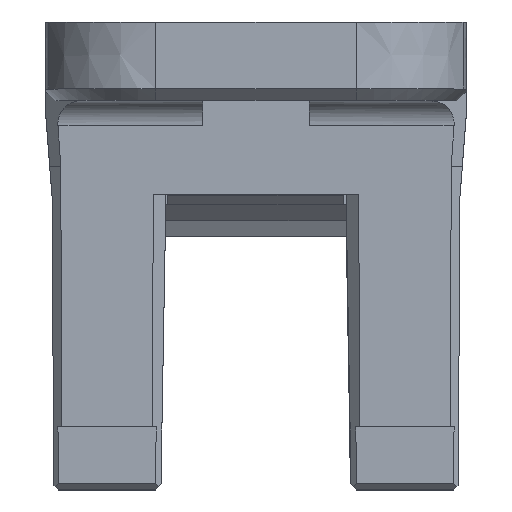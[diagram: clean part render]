
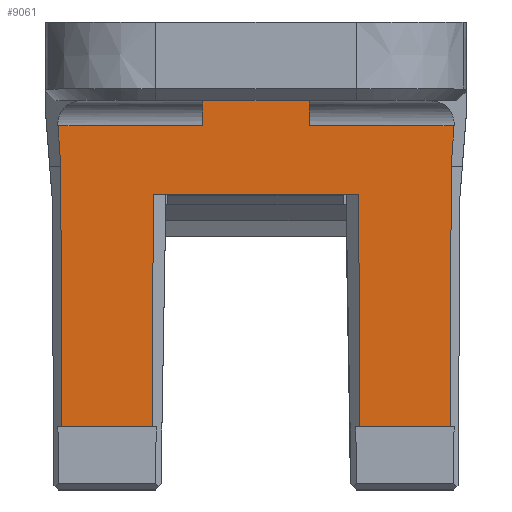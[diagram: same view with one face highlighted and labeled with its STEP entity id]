
A CAD part, top view. The second image highlights one B-rep face of the part: STEP entity #9061.
In plain terms, the highlighted planar face has unit normal (0, -0.005, 1).
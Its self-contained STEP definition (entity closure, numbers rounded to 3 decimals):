
#116 = CARTESIAN_POINT ( 'NONE',  ( 5.417, -13.332, 3.845 ) ) ;
#206 = ORIENTED_EDGE ( 'NONE', *, *, #9272, .T. ) ;
#349 = DIRECTION ( 'NONE',  ( 0., -1., -0.005 ) ) ;
#413 = FACE_OUTER_BOUND ( 'NONE', #2080, .T. ) ;
#495 = VERTEX_POINT ( 'NONE', #13740 ) ;
#556 = VECTOR ( 'NONE', #12670, 1000. ) ;
#650 = CARTESIAN_POINT ( 'NONE',  ( -1.7, 9.057, 3.962 ) ) ;
#680 = EDGE_CURVE ( 'NONE', #1330, #6354, #795, .T. ) ;
#686 = VECTOR ( 'NONE', #10533, 1000. ) ;
#789 = VERTEX_POINT ( 'NONE', #12309 ) ;
#795 = LINE ( 'NONE', #13290, #9855 ) ;
#837 = CARTESIAN_POINT ( 'NONE',  ( 6.222, -2.094, 3.904 ) ) ;
#922 = VECTOR ( 'NONE', #7527, 1000. ) ;
#983 = ORIENTED_EDGE ( 'NONE', *, *, #9221, .T. ) ;
#1007 = ORIENTED_EDGE ( 'NONE', *, *, #7165, .T. ) ;
#1070 = LINE ( 'NONE', #116, #3337 ) ;
#1073 = CARTESIAN_POINT ( 'NONE',  ( 0., -10.4, 3.86 ) ) ;
#1214 = CARTESIAN_POINT ( 'NONE',  ( 6.2, -12.396, 3.85 ) ) ;
#1320 = EDGE_CURVE ( 'NONE', #10159, #2669, #6273, .T. ) ;
#1323 = DIRECTION ( 'NONE',  ( 1., 0., 0. ) ) ;
#1330 = VERTEX_POINT ( 'NONE', #7094 ) ;
#1453 = DIRECTION ( 'NONE',  ( 0., -0.005, 1. ) ) ;
#1501 = EDGE_CURVE ( 'NONE', #10159, #2647, #8994, .T. ) ;
#1627 = EDGE_CURVE ( 'NONE', #11805, #2682, #9210, .T. ) ;
#1814 = EDGE_CURVE ( 'NONE', #11805, #13265, #10818, .T. ) ;
#1910 = DIRECTION ( 'NONE',  ( 0.002, -1., -0.005 ) ) ;
#2080 = EDGE_LOOP ( 'NONE', ( #4270, #6071, #1007, #3191, #5729, #3525, #4580, #8550, #6556, #7011, #8574, #4264, #983, #206 ) ) ;
#2247 = EDGE_CURVE ( 'NONE', #2647, #1330, #4466, .T. ) ;
#2647 = VERTEX_POINT ( 'NONE', #6832 ) ;
#2650 = AXIS2_PLACEMENT_3D ( 'NONE', #12749, #1453, #349 ) ;
#2663 = VECTOR ( 'NONE', #9988, 1000. ) ;
#2669 = VERTEX_POINT ( 'NONE', #10152 ) ;
#2682 = VERTEX_POINT ( 'NONE', #7950 ) ;
#3187 = CARTESIAN_POINT ( 'NONE',  ( -5.49, -12.307, 3.85 ) ) ;
#3191 = ORIENTED_EDGE ( 'NONE', *, *, #1627, .F. ) ;
#3337 = VECTOR ( 'NONE', #14606, 1000. ) ;
#3362 = VERTEX_POINT ( 'NONE', #10782 ) ;
#3407 = VECTOR ( 'NONE', #13300, 1000. ) ;
#3525 = ORIENTED_EDGE ( 'NONE', *, *, #12476, .T. ) ;
#3996 = DIRECTION ( 'NONE',  ( 0., -1., -0.005 ) ) ;
#4099 = CARTESIAN_POINT ( 'NONE',  ( 1.7, 9.057, 3.962 ) ) ;
#4204 = LINE ( 'NONE', #8740, #2663 ) ;
#4259 = EDGE_CURVE ( 'NONE', #8418, #495, #1070, .T. ) ;
#4264 = ORIENTED_EDGE ( 'NONE', *, *, #680, .T. ) ;
#4270 = ORIENTED_EDGE ( 'NONE', *, *, #4259, .T. ) ;
#4348 = VECTOR ( 'NONE', #12243, 1000. ) ;
#4466 = LINE ( 'NONE', #11498, #13156 ) ;
#4580 = ORIENTED_EDGE ( 'NONE', *, *, #5384, .T. ) ;
#5008 = CARTESIAN_POINT ( 'NONE',  ( -6.222, -2.094, 3.904 ) ) ;
#5384 = EDGE_CURVE ( 'NONE', #3362, #12862, #12466, .T. ) ;
#5729 = ORIENTED_EDGE ( 'NONE', *, *, #1814, .T. ) ;
#6071 = ORIENTED_EDGE ( 'NONE', *, *, #10536, .T. ) ;
#6273 = LINE ( 'NONE', #8640, #922 ) ;
#6354 = VERTEX_POINT ( 'NONE', #8402 ) ;
#6556 = ORIENTED_EDGE ( 'NONE', *, *, #1320, .F. ) ;
#6566 = CARTESIAN_POINT ( 'NONE',  ( -3.3, -12.411, 3.85 ) ) ;
#6642 = VECTOR ( 'NONE', #3996, 1000. ) ;
#6832 = CARTESIAN_POINT ( 'NONE',  ( -3.28, -3., 3.899 ) ) ;
#7011 = ORIENTED_EDGE ( 'NONE', *, *, #1501, .T. ) ;
#7094 = CARTESIAN_POINT ( 'NONE',  ( 3.28, -3., 3.899 ) ) ;
#7165 = EDGE_CURVE ( 'NONE', #789, #2682, #9597, .T. ) ;
#7263 = LINE ( 'NONE', #12892, #556 ) ;
#7442 = LINE ( 'NONE', #9804, #3407 ) ;
#7527 = DIRECTION ( 'NONE',  ( -1., 0., 0. ) ) ;
#7592 = VECTOR ( 'NONE', #12256, 1000. ) ;
#7854 = LINE ( 'NONE', #1073, #7903 ) ;
#7903 = VECTOR ( 'NONE', #10209, 1000. ) ;
#7950 = CARTESIAN_POINT ( 'NONE',  ( 1.7, 0.45, 3.917 ) ) ;
#8107 = CARTESIAN_POINT ( 'NONE',  ( 0., 0.45, 3.917 ) ) ;
#8402 = CARTESIAN_POINT ( 'NONE',  ( 3.296, -10.4, 3.86 ) ) ;
#8418 = VERTEX_POINT ( 'NONE', #837 ) ;
#8491 = DIRECTION ( 'NONE',  ( 0., 1., 0.005 ) ) ;
#8550 = ORIENTED_EDGE ( 'NONE', *, *, #12590, .T. ) ;
#8574 = ORIENTED_EDGE ( 'NONE', *, *, #2247, .T. ) ;
#8640 = CARTESIAN_POINT ( 'NONE',  ( -6.6, -10.4, 3.86 ) ) ;
#8646 = CARTESIAN_POINT ( 'NONE',  ( -3.296, -10.4, 3.86 ) ) ;
#8740 = CARTESIAN_POINT ( 'NONE',  ( -6.2, -12.396, 3.85 ) ) ;
#8892 = VERTEX_POINT ( 'NONE', #11486 ) ;
#8994 = LINE ( 'NONE', #6566, #7592 ) ;
#9061 = ADVANCED_FACE ( 'NONE', ( #413 ), #10803, .T. ) ;
#9210 = LINE ( 'NONE', #8107, #686 ) ;
#9221 = EDGE_CURVE ( 'NONE', #6354, #8892, #7854, .T. ) ;
#9272 = EDGE_CURVE ( 'NONE', #8892, #8418, #11395, .T. ) ;
#9310 = VECTOR ( 'NONE', #14607, 1000. ) ;
#9597 = LINE ( 'NONE', #4099, #11859 ) ;
#9804 = CARTESIAN_POINT ( 'NONE',  ( 1.7, -0.796, 3.911 ) ) ;
#9855 = VECTOR ( 'NONE', #1910, 1000. ) ;
#9988 = DIRECTION ( 'NONE',  ( 0.002, -1., -0.005 ) ) ;
#10152 = CARTESIAN_POINT ( 'NONE',  ( -6.204, -10.4, 3.86 ) ) ;
#10159 = VERTEX_POINT ( 'NONE', #8646 ) ;
#10209 = DIRECTION ( 'NONE',  ( 1., 0., 0. ) ) ;
#10533 = DIRECTION ( 'NONE',  ( 1., 0., 0. ) ) ;
#10536 = EDGE_CURVE ( 'NONE', #495, #789, #7442, .T. ) ;
#10782 = CARTESIAN_POINT ( 'NONE',  ( -6.315, -0.796, 3.911 ) ) ;
#10803 = PLANE ( 'NONE',  #2650 ) ;
#10818 = LINE ( 'NONE', #650, #6642 ) ;
#11395 = LINE ( 'NONE', #1214, #9310 ) ;
#11486 = CARTESIAN_POINT ( 'NONE',  ( 6.204, -10.4, 3.86 ) ) ;
#11498 = CARTESIAN_POINT ( 'NONE',  ( 0., -3., 3.899 ) ) ;
#11805 = VERTEX_POINT ( 'NONE', #14564 ) ;
#11859 = VECTOR ( 'NONE', #8491, 1000. ) ;
#11949 = CARTESIAN_POINT ( 'NONE',  ( -1.7, -0.796, 3.911 ) ) ;
#12243 = DIRECTION ( 'NONE',  ( 0.071, -0.997, -0.005 ) ) ;
#12256 = DIRECTION ( 'NONE',  ( 0.002, 1., 0.005 ) ) ;
#12309 = CARTESIAN_POINT ( 'NONE',  ( 1.7, -0.796, 3.911 ) ) ;
#12466 = LINE ( 'NONE', #3187, #4348 ) ;
#12476 = EDGE_CURVE ( 'NONE', #13265, #3362, #7263, .T. ) ;
#12590 = EDGE_CURVE ( 'NONE', #12862, #2669, #4204, .T. ) ;
#12670 = DIRECTION ( 'NONE',  ( -1., 0., 0. ) ) ;
#12749 = CARTESIAN_POINT ( 'NONE',  ( 0., -12.4, 3.85 ) ) ;
#12862 = VERTEX_POINT ( 'NONE', #5008 ) ;
#12892 = CARTESIAN_POINT ( 'NONE',  ( -6.372, -0.796, 3.911 ) ) ;
#13156 = VECTOR ( 'NONE', #1323, 1000. ) ;
#13265 = VERTEX_POINT ( 'NONE', #11949 ) ;
#13290 = CARTESIAN_POINT ( 'NONE',  ( 3.3, -12.411, 3.85 ) ) ;
#13300 = DIRECTION ( 'NONE',  ( -1., 0., 0. ) ) ;
#13740 = CARTESIAN_POINT ( 'NONE',  ( 6.315, -0.796, 3.911 ) ) ;
#14564 = CARTESIAN_POINT ( 'NONE',  ( -1.7, 0.45, 3.917 ) ) ;
#14606 = DIRECTION ( 'NONE',  ( 0.071, 0.997, 0.005 ) ) ;
#14607 = DIRECTION ( 'NONE',  ( 0.002, 1., 0.005 ) ) ;
